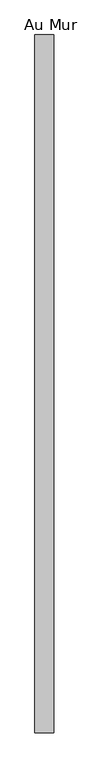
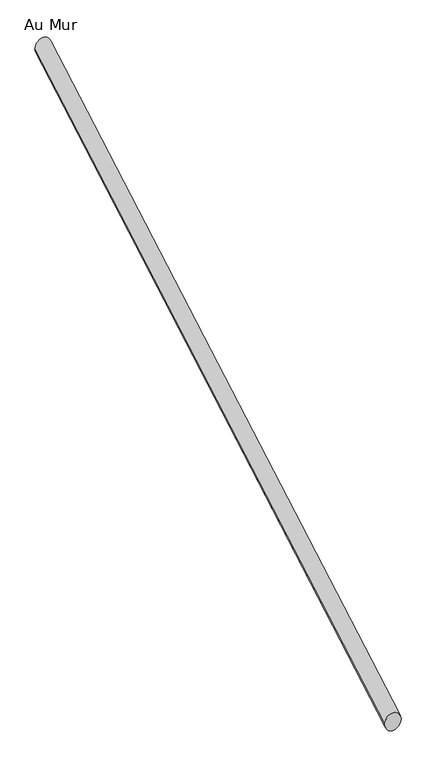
"""IFC4 building model written with IfcOpenShell, lengths in millimetres: railing geometry, Au Mur."""

from ifc_helpers import new_model, si_unit, frame, origin, place, context, project, spatial, ellipse_curve, source, transform, mapped, element, save
from ifc_brep_helpers import plane_surface, cylinder_surface, advanced_brep


def au_mur_a203f208(model_context):
    return source(origin(), model_context, "Body", "AdvancedBrep", [
        advanced_brep(
        [(-15984.3891644, 2488.7206382, 1296.0320076), (-15954.3891644, 2488.7206382, 1296.0320076), (-15984.3891644, 3608.7206382, 1936.0320076), (-15954.3891644, 3608.7206382, 1936.0320076)],
        [
            (0, 1, ellipse_curve(frame((-15969.3891644, 2488.7206382, 1296.0320076), z_axis=(0.0, -1.0, 0.0), x_axis=(0.0, 0.0, -1.0)), 17.2762666, 15.0)),
            (1, 0, ellipse_curve(frame((-15969.3891644, 2488.7206382, 1296.0320076), z_axis=(0.0, -1.0, 0.0), x_axis=(0.0, 0.0, -1.0)), 17.2762666, 15.0)),
            (2, 3, ellipse_curve(frame((-15969.3891644, 3608.7206382, 1936.0320076), z_axis=(0.0, 1.0, 0.0), x_axis=(0.0, 0.0, -1.0)), 17.2762666, 15.0)),
            (3, 2, ellipse_curve(frame((-15969.3891644, 3608.7206382, 1936.0320076), z_axis=(0.0, 1.0, 0.0), x_axis=(0.0, 0.0, -1.0)), 17.2762666, 15.0)),
            (0, 2),
            (3, 1),
        ],
        [
            plane_surface(frame((-15969.3891644, 2488.7206382, 1313.3082742), z_axis=(0.0, -1.0, 0.0), x_axis=(0.0, 0.0, 1.0))),
            plane_surface(frame((-15969.3891644, 3608.7206382, 1953.3082742), z_axis=(0.0, 1.0, 0.0), x_axis=(0.0, 0.0, 1.0))),
            cylinder_surface(frame((-15969.3891644, 2496.1627222, 1300.2846271), z_axis=(0.0, -0.8682431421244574, -0.4961389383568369), x_axis=(1.0, 0.0, 0.0)), 15.0),
        ],
        [
            (0, [[1, 2]]),
            (1, [[3, 4]]),
            (2, [[-1, 5, -4, 6]]),
            (2, [[-2, -6, -3, -5]]),
        ],
    ),
    ])


if __name__ == "__main__":
    model = new_model("IFC4")
    model_context = context("Model", 3, world=origin())
    ifc_project = project(units=[si_unit("LENGTHUNIT", "METRE", prefix="MILLI")], contexts=[model_context])
    site = spatial("IfcSite", under=ifc_project)
    building = spatial("IfcBuilding", under=site)
    placement = place(None, origin())
    au_mur_shape = au_mur_a203f208(model_context)
    element("IfcRailing", 1, ObjectType="Au Mur", at=placement, inside=building, context=model_context, shape_type="MappedRepresentation", body=[
        mapped(au_mur_shape, transform((0.0, 0.0, 0.0), x_axis=(1.0, 0.0, 0.0), y_axis=(0.0, 1.0, 0.0), z_axis=(0.0, 0.0, 1.0))),
    ])
    save(model, "model.ifc")
